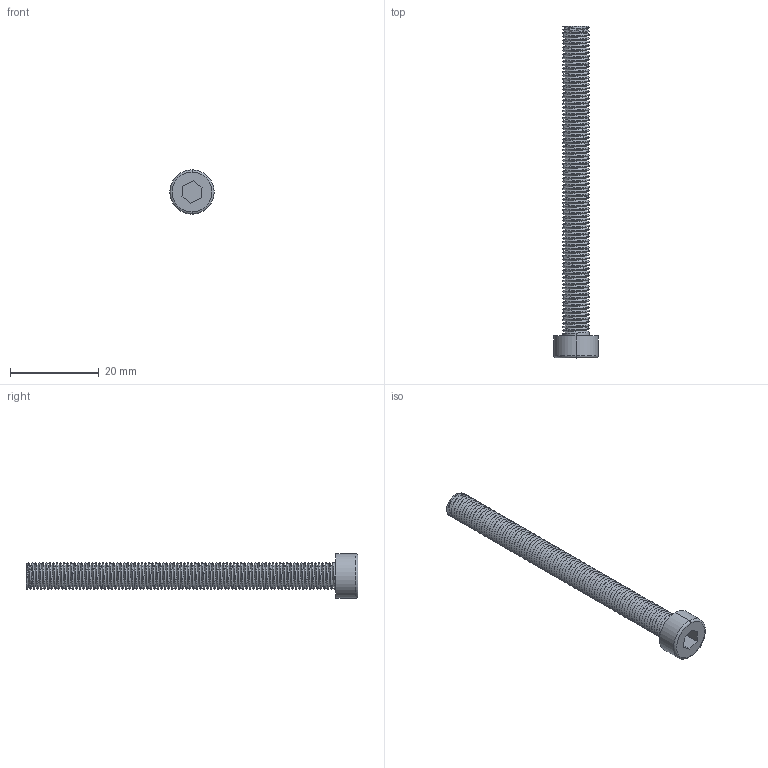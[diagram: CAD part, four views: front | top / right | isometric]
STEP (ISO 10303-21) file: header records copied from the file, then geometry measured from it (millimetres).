
FILE_DESCRIPTION (( 'STEP AP203' ), '1' );
FILE_NAME ('149-CE-HSN-M6.STEP', '2015-07-09T09:06:00', ( '' ), ( '' ), 'SwSTEP 2.0', 'SolidWorks 2013', '' );
FILE_SCHEMA (( 'CONFIG_CONTROL_DESIGN' ));
Length unit declared in the file: millimetre
Products named in the file (1): 149-CE-HSN-M6
Bounding box: 10 x 75 x 10 mm (x, y, z)
Volume: 2003.8 mm3; surface area: 2357.6 mm2
Topology: 1 solids, 1 shells, 192 faces, 562 edges, 374 vertices
Faces by surface type: cylinder 177, plane 11, torus 2, bspline 2
Entity records: 13369 total; most frequent: CARTESIAN_POINT 9248, ORIENTED_EDGE 1124, DIRECTION 600, EDGE_CURVE 562, VERTEX_POINT 374, AXIS2_PLACEMENT_3D 201, LINE 198, VECTOR 198
